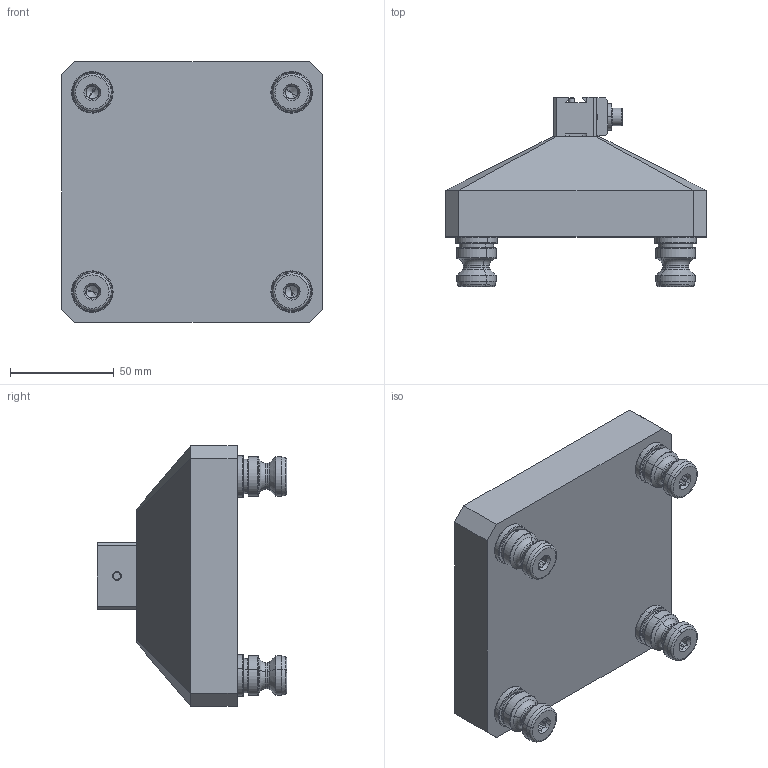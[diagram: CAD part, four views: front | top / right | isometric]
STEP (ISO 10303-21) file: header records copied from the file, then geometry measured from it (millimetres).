
FILE_DESCRIPTION (( 'STEP AP214' ), '1' );
FILE_NAME ('R96-DM12.STEP', '2018-01-22T21:15:17', ( '' ), ( '' ), 'SwSTEP 2.0', 'SolidWorks 2017', '' );
FILE_SCHEMA (( 'AUTOMOTIVE_DESIGN' ));
Length unit declared in the file: inch
Products named in the file (10): HW.0203X0500.FW_DEFAULT; R96-DM12; DM12; PS20F; DM12-1_D051251WM; 91595A100_METRIC ALLOY STEEL DOWEL PIN_91595A100; 91595A108_METRIC ALLOY STEEL DOWEL PIN_91595A108; CLW10M_CLW10; 91290A242_BLACK-OXIDE CLASS 12.9 SOCKET HEAD CAP SCREW_91290A242
Assembly tree (13 placements, depth 3):
  R96-DM12
    R96-DM12
    DM12
      DM12-1_D051251WM
      CLW10M_CLW10
      HW.0203X0500.FW_DEFAULT
      91595A100_METRIC ALLOY STEEL DOWEL PIN_91595A100
      91595A108_METRIC ALLOY STEEL DOWEL PIN_91595A108  x2
      91290A242_BLACK-OXIDE CLASS 12.9 SOCKET HEAD CAP SCREW_91290A242
    PS20F  x4
Bounding box: 125.73 x 91.4 x 125.73 mm (x, y, z)
Volume: 570850.1 mm3; surface area: 67811.5 mm2
Topology: 12 solids, 12 shells, 1396 faces, 3508 edges, 2231 vertices
Faces by surface type: plane 643, cylinder 267, bspline 232, cone 138, torus 104, sphere 12
Entity records: 46482 total; most frequent: CARTESIAN_POINT 17448, ORIENTED_EDGE 5792, DIRECTION 4395, EDGE_CURVE 2896, VERTEX_POINT 1895, LINE 1847, VECTOR 1847, AXIS2_PLACEMENT_3D 1274
